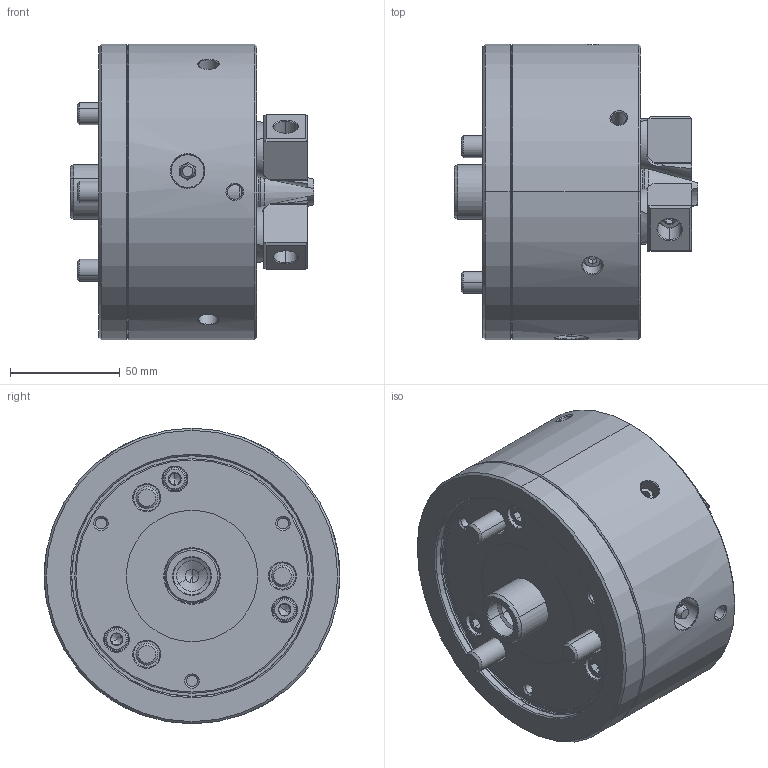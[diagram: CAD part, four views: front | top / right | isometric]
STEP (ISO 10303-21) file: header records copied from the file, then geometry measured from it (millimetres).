
FILE_DESCRIPTION (( 'STEP AP214' ), '1' );
FILE_NAME ('HP_PUE05_TEMPLATE_OC.STEP', '2022-03-22T23:08:34', ( '' ), ( '' ), 'SwSTEP 2.0', 'SolidWorks 2020', '' );
FILE_SCHEMA (( 'AUTOMOTIVE_DESIGN' ));
Length unit declared in the file: millimetre
Products named in the file (1): HP_PUE05_TEMPLATE_OC
Bounding box: 111 x 135 x 135 mm (x, y, z)
Volume: 1002522.6 mm3; surface area: 114679.8 mm2
Topology: 7 solids, 14 shells, 1162 faces, 2877 edges, 1791 vertices
Faces by surface type: plane 466, cone 310, cylinder 239, bspline 124, torus 23
Entity records: 58402 total; most frequent: CARTESIAN_POINT 19723, ORIENTED_EDGE 5606, DIRECTION 4781, EDGE_CURVE 2803, VERTEX_POINT 1791, AXIS2_PLACEMENT_3D 1690, VECTOR 1401, LINE 1401
